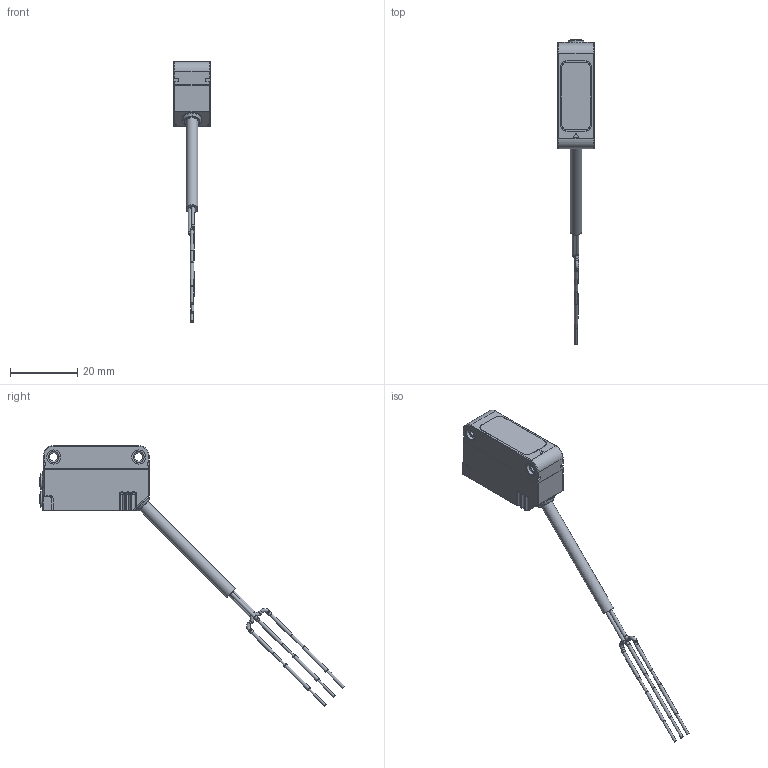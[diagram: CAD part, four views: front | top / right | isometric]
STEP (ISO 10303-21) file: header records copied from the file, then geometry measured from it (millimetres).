
FILE_DESCRIPTION(/* description */ (''),/* implementation_level */ '2;1');
FILE_NAME(/* name */ 'DSD-1152.stp',/* time_stamp */ '2024-06-24T18:24:44+02:00',/* author */ (''),/* organization */ (''),/* preprocessor_version */ 'ST-DEVELOPER v16.701',/* originating_system */ 'SIEMENS PLM Software NX 1946',/* authorisation */ '');
FILE_SCHEMA (('AUTOMOTIVE_DESIGN { 1 0 10303 214 3 1 1 1 }'));
Products named in the file (3): AP061287_00-Bottom Cover per DSD 1152; AP061285_00-Optic Box Group per DSD; AS008632_00-S3N - DSD
Assembly tree (2 placements, depth 2):
  AS008632_00-S3N - DSD
    AP061285_00-Optic Box Group per DSD
    AP061287_00-Bottom Cover per DSD 1152
Bounding box: 10.82 x 91.02 x 77.84 mm (x, y, z)
Volume: 6996.6 mm3; surface area: 5635.5 mm2
Topology: 11 solids, 33 shells, 1721 faces, 4423 edges, 2804 vertices
Faces by surface type: plane 666, extrusion 309, cylinder 298, bspline 200, torus 119, sphere 70, cone 59
Full cylindrical faces by diameter (mm): 0.5 x2, 0.8 x6, 1.05 x14, 2.4 x2, 2.5 x2, 3.2 x4, 3.454 x1, 3.5 x2, 3.8 x2, 4.2 x8, 4.244 x1, 4.5 x2, 4.85 x2, 5.9 x1
Entity records: 61970 total; most frequent: CARTESIAN_POINT 22966, ORIENTED_EDGE 8388, DIRECTION 6734, EDGE_CURVE 4259, VERTEX_POINT 2773, VECTOR 2294, AXIS2_PLACEMENT_3D 2220, LINE 1985
